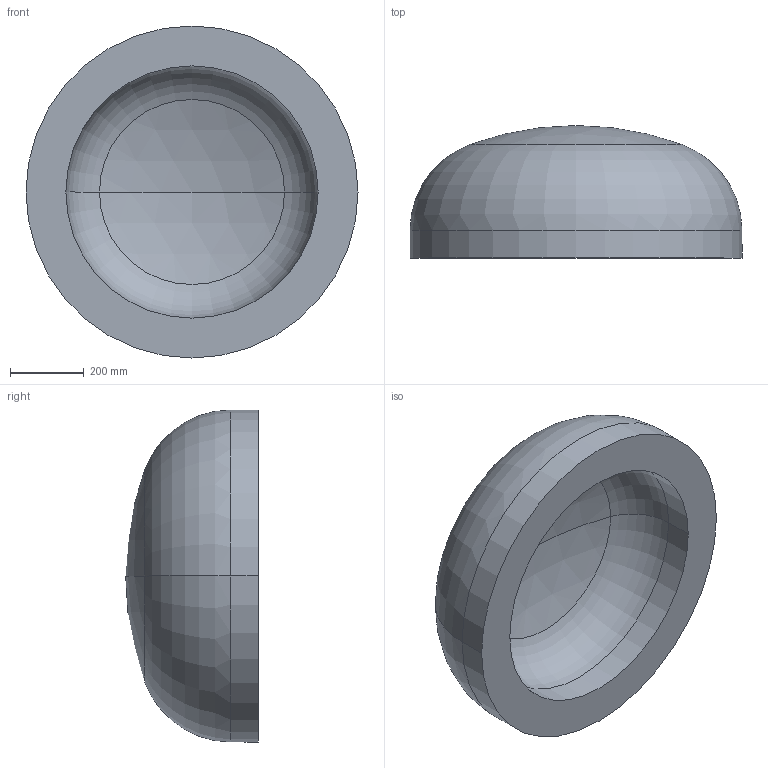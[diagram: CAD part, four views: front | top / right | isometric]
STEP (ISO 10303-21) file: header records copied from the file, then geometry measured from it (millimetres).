
FILE_DESCRIPTION (( 'STEP AP203' ), '1' );
FILE_NAME ('DIN 28013 Korbbogenform_-_Boden DIN 28013 - 900 x 75 - I - s=108.step', '2016-07-01T08:39:09', ( '' ), ( '' ), 'SwSTEP 2.0', 'SolidWorks 2013', '' );
FILE_SCHEMA (( 'CONFIG_CONTROL_DESIGN' ));
Length unit declared in the file: millimetre
Products named in the file (1): DIN 28013 Korbbogenform_-_Boden DIN 28013 - 900 x 75 - I - s=108
Bounding box: 900 x 359.31 x 900 mm (x, y, z)
Volume: 102516768.4 mm3; surface area: 2191606.7 mm2
Topology: 1 solids, 1 shells, 13 faces, 24 edges, 14 vertices
Faces by surface type: torus 4, cylinder 4, sphere 4, plane 1
Entity records: 407 total; most frequent: DIRECTION 72, CARTESIAN_POINT 52, ORIENTED_EDGE 48, AXIS2_PLACEMENT_3D 34, EDGE_CURVE 24, CIRCLE 20, EDGE_LOOP 14, VERTEX_POINT 14
